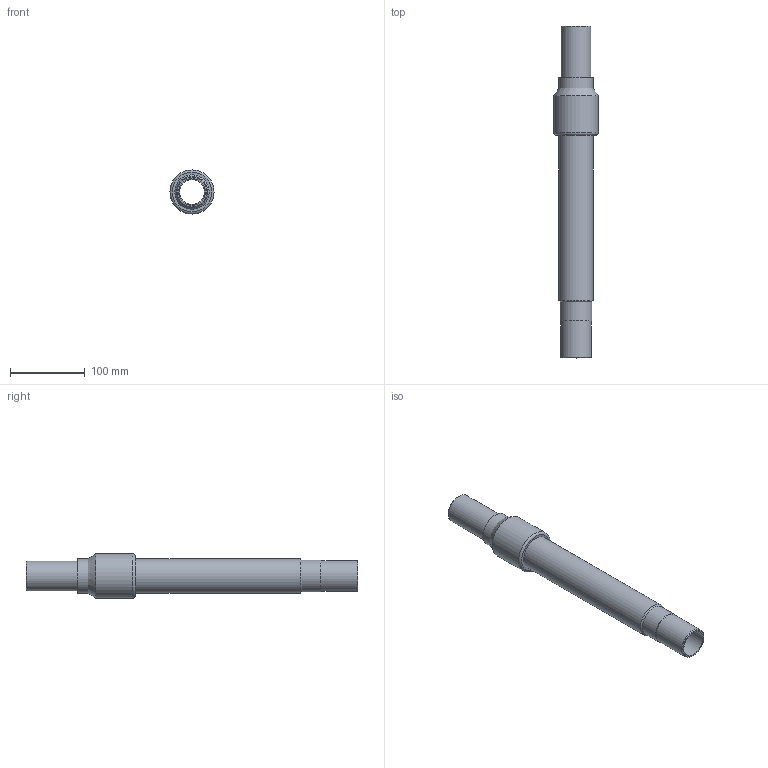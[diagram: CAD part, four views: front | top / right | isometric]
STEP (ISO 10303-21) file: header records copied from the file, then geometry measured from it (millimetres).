
FILE_DESCRIPTION(/* description */ ('Unknown'),/* implementation_level */ '2;1');
FILE_NAME(/* name */ 'RTSZRP040C',/* time_stamp */ '2022-04-27T09:47:21+02:00',/* author */ ('Unknown'),/* organization */ ('Unknown'),/* preprocessor_version */ 'ST-DEVELOPER v18.1',/* originating_system */ 'Solid Edge',/* authorisation */ 'Unknown');
FILE_SCHEMA (('AUTOMOTIVE_DESIGN {1 0 10303 214 3 1 1}'));
Length unit declared in the file: millimetre
Products named in the file (4): RTSZRP040C; Partea ACCIAIO; copertura tubo; Parte PE__oa_0
Assembly tree (3 placements, depth 2):
  RTSZRP040C
    Partea ACCIAIO
    copertura tubo
    Parte PE__oa_0
Bounding box: 59 x 444 x 59 mm (x, y, z)
Volume: 316228.2 mm3; surface area: 211932.1 mm2
Topology: 3 solids, 3 shells, 21 faces, 39 edges, 24 vertices
Faces by surface type: cylinder 9, plane 6, cone 4, torus 2
Full cylindrical faces by diameter (mm): 32.6 x1, 36 x1, 40 x1, 41.4 x1, 42.4 x2, 46 x2, 59 x1
Entity records: 531 total; most frequent: DIRECTION 92, CARTESIAN_POINT 67, AXIS2_PLACEMENT_3D 46, ORIENTED_EDGE 42, EDGE_LOOP 42, FACE_BOUND 42, EDGE_CURVE 21, VERTEX_POINT 21
